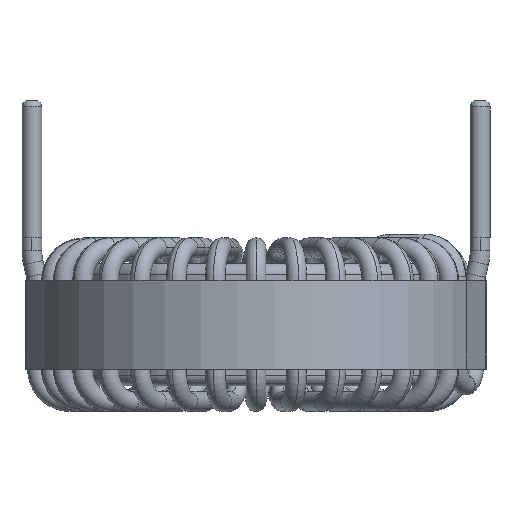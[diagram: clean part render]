
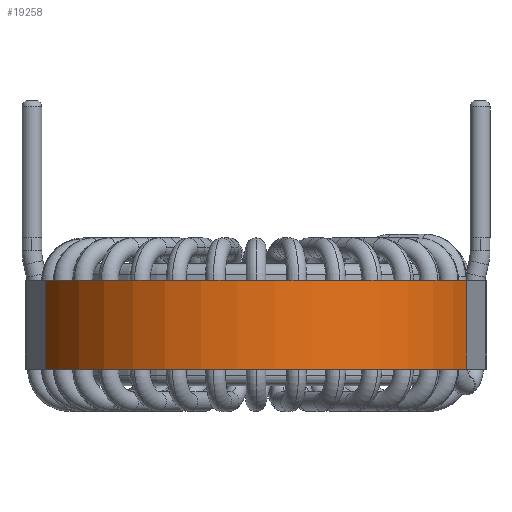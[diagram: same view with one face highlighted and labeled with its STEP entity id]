
A CAD part, front view. The second image highlights one B-rep face of the part: STEP entity #19258.
In plain terms, the highlighted cylindrical face has radius 20.38 mm (diameter 40.76 mm), a partial arc.
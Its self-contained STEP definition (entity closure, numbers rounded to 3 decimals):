
#16 = DIRECTION ( 'NONE',  ( 0., 0., -1. ) ) ;
#670 = AXIS2_PLACEMENT_3D ( 'NONE', #36755, #15001, #36359 ) ;
#997 = EDGE_CURVE ( 'NONE', #30908, #21411, #34661, .T. ) ;
#1820 = CARTESIAN_POINT ( 'NONE',  ( 19.456, -6.067, -4.1 ) ) ;
#1856 = ORIENTED_EDGE ( 'NONE', *, *, #997, .T. ) ;
#3658 = CARTESIAN_POINT ( 'NONE',  ( -19.456, -6.067, -4.1 ) ) ;
#6635 = CARTESIAN_POINT ( 'NONE',  ( 19.456, -6.067, 4.1 ) ) ;
#6883 = DIRECTION ( 'NONE',  ( 0., 0., 1. ) ) ;
#7650 = EDGE_CURVE ( 'NONE', #30327, #17281, #30459, .T. ) ;
#7848 = DIRECTION ( 'NONE',  ( -1., 0., 0. ) ) ;
#9498 = CARTESIAN_POINT ( 'NONE',  ( -19.456, -6.067, 4.1 ) ) ;
#12351 = FACE_OUTER_BOUND ( 'NONE', #32968, .T. ) ;
#12767 = DIRECTION ( 'NONE',  ( 0., 0., -1. ) ) ;
#15001 = DIRECTION ( 'NONE',  ( 0., 0., 1. ) ) ;
#16070 = DIRECTION ( 'NONE',  ( 1., 0., 0. ) ) ;
#17281 = VERTEX_POINT ( 'NONE', #1820 ) ;
#17889 = ORIENTED_EDGE ( 'NONE', *, *, #7650, .F. ) ;
#19258 = ADVANCED_FACE ( 'NONE', ( #12351 ), #32198, .T. ) ;
#19394 = VECTOR ( 'NONE', #12767, 1000. ) ;
#20200 = DIRECTION ( 'NONE',  ( 0., 0., -1. ) ) ;
#21411 = VERTEX_POINT ( 'NONE', #3658 ) ;
#21619 = CIRCLE ( 'NONE', #23176, 20.38 ) ;
#22761 = CARTESIAN_POINT ( 'NONE',  ( 0., 0., 4.1 ) ) ;
#22923 = EDGE_CURVE ( 'NONE', #30908, #30327, #36243, .T. ) ;
#23176 = AXIS2_PLACEMENT_3D ( 'NONE', #34579, #6883, #16070 ) ;
#26920 = AXIS2_PLACEMENT_3D ( 'NONE', #22761, #20200, #7848 ) ;
#27511 = EDGE_CURVE ( 'NONE', #21411, #17281, #21619, .T. ) ;
#30327 = VERTEX_POINT ( 'NONE', #6635 ) ;
#30459 = LINE ( 'NONE', #31260, #19394 ) ;
#30908 = VERTEX_POINT ( 'NONE', #38141 ) ;
#31260 = CARTESIAN_POINT ( 'NONE',  ( 19.456, -6.067, 4.1 ) ) ;
#31283 = ORIENTED_EDGE ( 'NONE', *, *, #27511, .T. ) ;
#32198 = CYLINDRICAL_SURFACE ( 'NONE', #26920, 20.38 ) ;
#32968 = EDGE_LOOP ( 'NONE', ( #31283, #17889, #38392, #1856 ) ) ;
#34579 = CARTESIAN_POINT ( 'NONE',  ( 0., 0., -4.1 ) ) ;
#34661 = LINE ( 'NONE', #9498, #36586 ) ;
#36243 = CIRCLE ( 'NONE', #670, 20.38 ) ;
#36359 = DIRECTION ( 'NONE',  ( 1., 0., 0. ) ) ;
#36586 = VECTOR ( 'NONE', #16, 1000. ) ;
#36755 = CARTESIAN_POINT ( 'NONE',  ( 0., 0., 4.1 ) ) ;
#38141 = CARTESIAN_POINT ( 'NONE',  ( -19.456, -6.067, 4.1 ) ) ;
#38392 = ORIENTED_EDGE ( 'NONE', *, *, #22923, .F. ) ;
